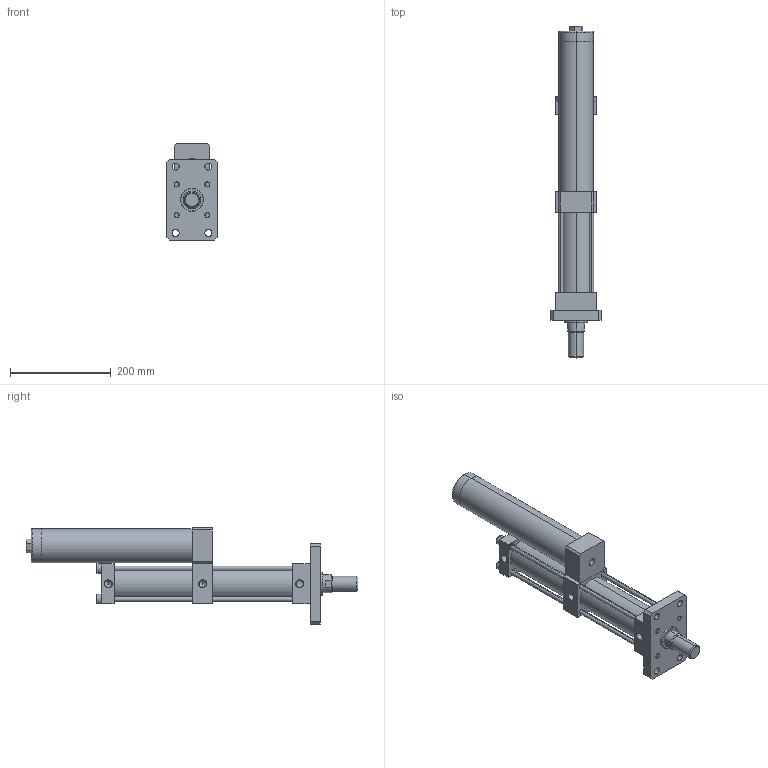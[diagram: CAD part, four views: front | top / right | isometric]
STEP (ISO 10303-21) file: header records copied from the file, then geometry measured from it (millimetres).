
FILE_DESCRIPTION (( 'STEP AP203' ), '1' );
FILE_NAME ('MPT-63-100-10-1T.STEP', '2016-03-17T09:39:41', ( 'WIN' ), ( '' ), 'SwSTEP 2.0', 'SolidWorks 2014', '' );
FILE_SCHEMA (( 'CONFIG_CONTROL_DESIGN' ));
Length unit declared in the file: millimetre
Products named in the file (1): MPT-63-100-10-1T
Bounding box: 100 x 660 x 191 mm (x, y, z)
Volume: 2309035.6 mm3; surface area: 446899 mm2
Topology: 15 solids, 15 shells, 252 faces, 573 edges, 360 vertices
Faces by surface type: plane 132, cylinder 84, cone 24, torus 12
Entity records: 7243 total; most frequent: DIRECTION 1306, CARTESIAN_POINT 1279, ORIENTED_EDGE 1134, EDGE_CURVE 567, AXIS2_PLACEMENT_3D 497, VERTEX_POINT 360, LINE 312, VECTOR 312
